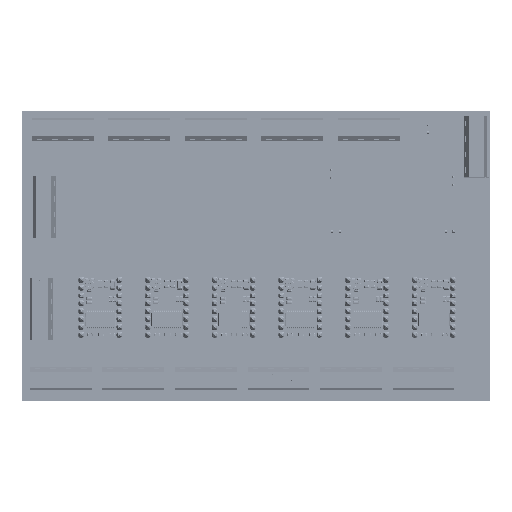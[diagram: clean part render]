
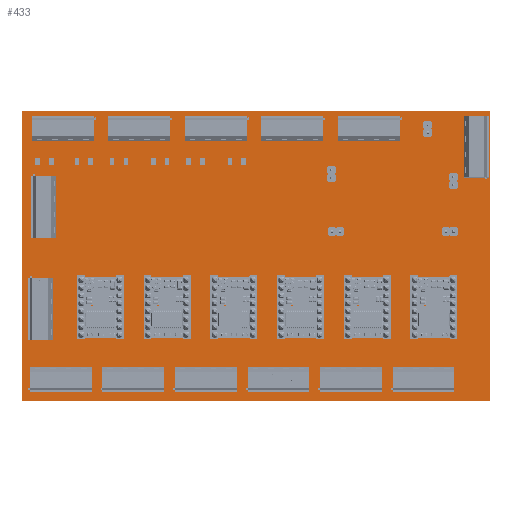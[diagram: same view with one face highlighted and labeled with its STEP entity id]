
A CAD part, top view. The second image highlights one B-rep face of the part: STEP entity #433.
In plain terms, the highlighted planar face has unit normal (0, 0, 1).
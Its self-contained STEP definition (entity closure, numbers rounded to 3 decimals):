
#272 = VERTEX_POINT('',#273);
#273 = CARTESIAN_POINT('',(0.,131.826,0.411));
#279 = EDGE_CURVE('',#272,#280,#282,.T.);
#280 = VERTEX_POINT('',#281);
#281 = CARTESIAN_POINT('',(0.,37.973,0.411));
#282 = LINE('',#283,#284);
#283 = CARTESIAN_POINT('',(0.,131.826,0.411));
#284 = VECTOR('',#285,1.);
#285 = DIRECTION('',(0.,-1.,0.));
#310 = EDGE_CURVE('',#280,#311,#313,.T.);
#311 = VERTEX_POINT('',#312);
#312 = CARTESIAN_POINT('',(0.254,37.719,0.411));
#313 = LINE('',#314,#315);
#314 = CARTESIAN_POINT('',(0.,37.973,0.411));
#315 = VECTOR('',#316,1.);
#316 = DIRECTION('',(0.707,-0.707,0.));
#341 = EDGE_CURVE('',#311,#342,#344,.T.);
#342 = VERTEX_POINT('',#343);
#343 = CARTESIAN_POINT('',(151.511,37.719,0.411));
#344 = LINE('',#345,#346);
#345 = CARTESIAN_POINT('',(0.254,37.719,0.411));
#346 = VECTOR('',#347,1.);
#347 = DIRECTION('',(1.,0.,0.));
#372 = EDGE_CURVE('',#342,#373,#375,.T.);
#373 = VERTEX_POINT('',#374);
#374 = CARTESIAN_POINT('',(151.511,131.699,0.411));
#375 = LINE('',#376,#377);
#376 = CARTESIAN_POINT('',(151.511,37.719,0.411));
#377 = VECTOR('',#378,1.);
#378 = DIRECTION('',(0.,1.,0.));
#403 = EDGE_CURVE('',#373,#272,#404,.T.);
#404 = LINE('',#405,#406);
#405 = CARTESIAN_POINT('',(151.511,131.699,0.411));
#406 = VECTOR('',#407,1.);
#407 = DIRECTION('',(-1.,0.001,0.));
#433 = ADVANCED_FACE('',(#434),#441,.F.);
#434 = FACE_BOUND('',#435,.T.);
#435 = EDGE_LOOP('',(#436,#437,#438,#439,#440));
#436 = ORIENTED_EDGE('',*,*,#279,.T.);
#437 = ORIENTED_EDGE('',*,*,#310,.T.);
#438 = ORIENTED_EDGE('',*,*,#341,.T.);
#439 = ORIENTED_EDGE('',*,*,#372,.T.);
#440 = ORIENTED_EDGE('',*,*,#403,.T.);
#441 = PLANE('',#442);
#442 = AXIS2_PLACEMENT_3D('',#443,#444,#445);
#443 = CARTESIAN_POINT('',(0.,131.826,0.411));
#444 = DIRECTION('',(0.,0.,-1.));
#445 = DIRECTION('',(-1.,0.,0.));
